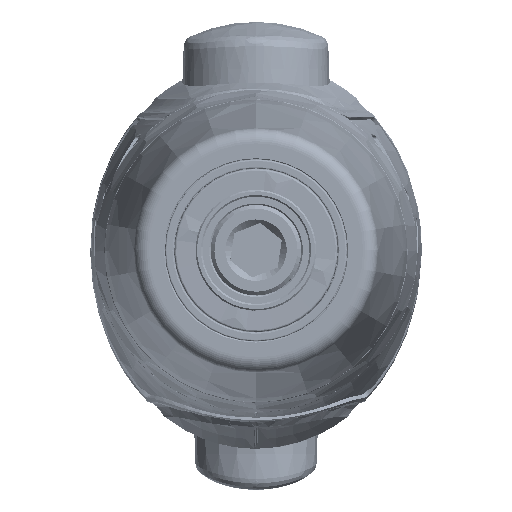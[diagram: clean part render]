
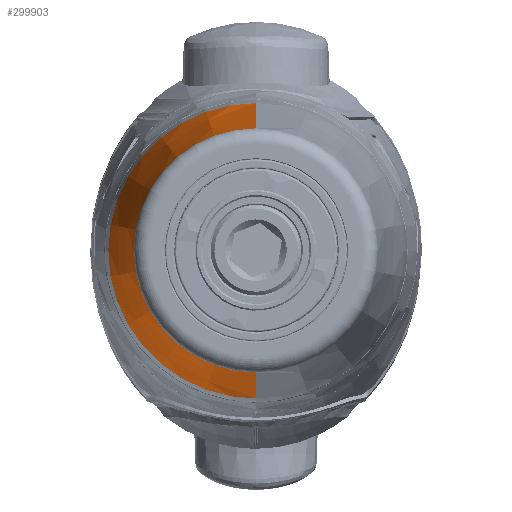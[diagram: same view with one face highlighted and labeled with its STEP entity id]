
A CAD part, top view. The second image highlights one B-rep face of the part: STEP entity #299903.
In plain terms, the highlighted conical face has half-angle 7 degrees and reference radius 17.858 mm.
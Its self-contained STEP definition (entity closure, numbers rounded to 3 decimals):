
#298948=CARTESIAN_POINT('',(0.,0.,15.342));
#298949=DIRECTION('',(0.,0.,-1.));
#298950=DIRECTION('',(1.,0.,0.));
#298951=AXIS2_PLACEMENT_3D('',#298948,#298949,#298950);
#298958=DIRECTION('',(-0.122,0.,-0.993));
#298959=VECTOR('',#298958,27.809);
#298960=CARTESIAN_POINT('',(-16.164,0.,42.944));
#298961=LINE('',#298960,#298959);
#298962=DIRECTION('',(0.122,0.,-0.993));
#298963=VECTOR('',#298962,27.809);
#298964=CARTESIAN_POINT('',(16.164,0.,42.944));
#298965=LINE('',#298964,#298963);
#298991=CARTESIAN_POINT('',(0.,0.,42.944));
#298992=DIRECTION('',(0.,0.,1.));
#298993=DIRECTION('',(-1.,0.,0.));
#298994=AXIS2_PLACEMENT_3D('',#298991,#298992,#298993);
#299539=CARTESIAN_POINT('',(16.164,0.,42.944));
#299540=CARTESIAN_POINT('',(19.553,0.,15.342));
#299541=VERTEX_POINT('',#299539);
#299542=VERTEX_POINT('',#299540);
#299543=CARTESIAN_POINT('',(-16.164,0.,42.944));
#299544=CARTESIAN_POINT('',(-19.553,0.,15.342));
#299545=VERTEX_POINT('',#299543);
#299546=VERTEX_POINT('',#299544);
#299889=CARTESIAN_POINT('',(0.,0.,29.143));
#299890=DIRECTION('',(0.,0.,-1.));
#299891=DIRECTION('',(-1.,0.,0.));
#299892=AXIS2_PLACEMENT_3D('',#299889,#299890,#299891);
#299893=CONICAL_SURFACE('',#299892,17.858,7.);
#299894=ORIENTED_EDGE('',*,*,#299879,.T.);
#299896=ORIENTED_EDGE('',*,*,#299895,.F.);
#299898=ORIENTED_EDGE('',*,*,#299897,.T.);
#299900=ORIENTED_EDGE('',*,*,#299899,.T.);
#299901=EDGE_LOOP('',(#299894,#299896,#299898,#299900));
#299902=FACE_OUTER_BOUND('',#299901,.F.);
#299903=ADVANCED_FACE('',(#299902),#299893,.T.);
#298952=CIRCLE('',#298951,19.553);
#298995=CIRCLE('',#298994,16.164);
#299879=EDGE_CURVE('',#299542,#299546,#298952,.T.);
#299895=EDGE_CURVE('',#299545,#299546,#298961,.T.);
#299897=EDGE_CURVE('',#299545,#299541,#298995,.T.);
#299899=EDGE_CURVE('',#299541,#299542,#298965,.T.);
